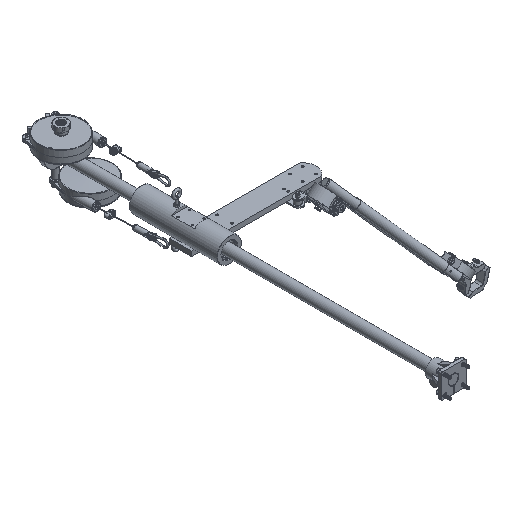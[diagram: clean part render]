
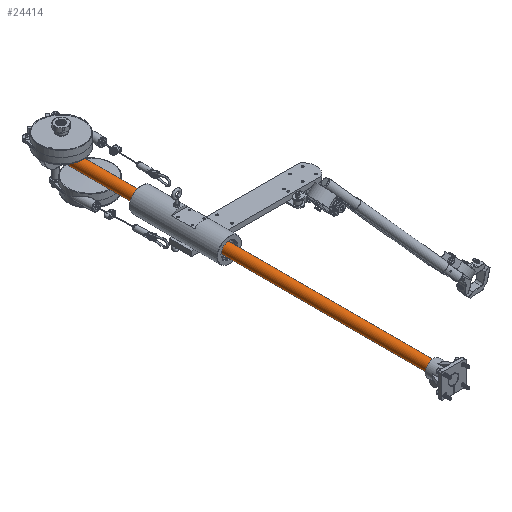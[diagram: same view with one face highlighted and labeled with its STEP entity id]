
A CAD part, isometric view. The second image highlights one B-rep face of the part: STEP entity #24414.
In plain terms, the highlighted cylindrical face has radius 12.5 mm (diameter 25 mm), a full revolution.
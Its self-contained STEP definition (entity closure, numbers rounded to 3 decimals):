
#517 = DIRECTION ( 'NONE',  ( -0.397, 0., -0.918 ) ) ;
#796 = AXIS2_PLACEMENT_3D ( 'NONE', #11696, #58640, #18425 ) ;
#2417 = CYLINDRICAL_SURFACE ( 'NONE', #39559, 12.5 ) ;
#4674 = EDGE_CURVE ( 'NONE', #31562, #31562, #21382, .T. ) ;
#5297 = AXIS2_PLACEMENT_3D ( 'NONE', #80862, #40676, #517 ) ;
#6965 = CARTESIAN_POINT ( 'NONE',  ( 0., 981., 0. ) ) ;
#7221 = CIRCLE ( 'NONE', #796, 12.5 ) ;
#11696 = CARTESIAN_POINT ( 'NONE',  ( 0., 980., 0. ) ) ;
#12696 = ORIENTED_EDGE ( 'NONE', *, *, #71701, .T. ) ;
#12964 = FACE_OUTER_BOUND ( 'NONE', #24784, .T. ) ;
#13990 = DIRECTION ( 'NONE',  ( 0.397, 0., 0.918 ) ) ;
#18425 = DIRECTION ( 'NONE',  ( -0.397, 0., -0.918 ) ) ;
#21382 = CIRCLE ( 'NONE', #5297, 12.5 ) ;
#24414 = ADVANCED_FACE ( 'NONE', ( #12964, #44384 ), #2417, .T. ) ;
#24784 = EDGE_LOOP ( 'NONE', ( #38389 ) ) ;
#25225 = CARTESIAN_POINT ( 'NONE',  ( -4.958, 980., -11.475 ) ) ;
#31562 = VERTEX_POINT ( 'NONE', #76736 ) ;
#38389 = ORIENTED_EDGE ( 'NONE', *, *, #4674, .T. ) ;
#39559 = AXIS2_PLACEMENT_3D ( 'NONE', #6965, #74099, #13990 ) ;
#40676 = DIRECTION ( 'NONE',  ( 0., 1., 0. ) ) ;
#44384 = FACE_OUTER_BOUND ( 'NONE', #84747, .T. ) ;
#58640 = DIRECTION ( 'NONE',  ( 0., -1., 0. ) ) ;
#66717 = VERTEX_POINT ( 'NONE', #25225 ) ;
#71701 = EDGE_CURVE ( 'NONE', #66717, #66717, #7221, .T. ) ;
#74099 = DIRECTION ( 'NONE',  ( 0., -1., 0. ) ) ;
#76736 = CARTESIAN_POINT ( 'NONE',  ( -4.958, 2., -11.475 ) ) ;
#80862 = CARTESIAN_POINT ( 'NONE',  ( 0., 2., 0. ) ) ;
#84747 = EDGE_LOOP ( 'NONE', ( #12696 ) ) ;
